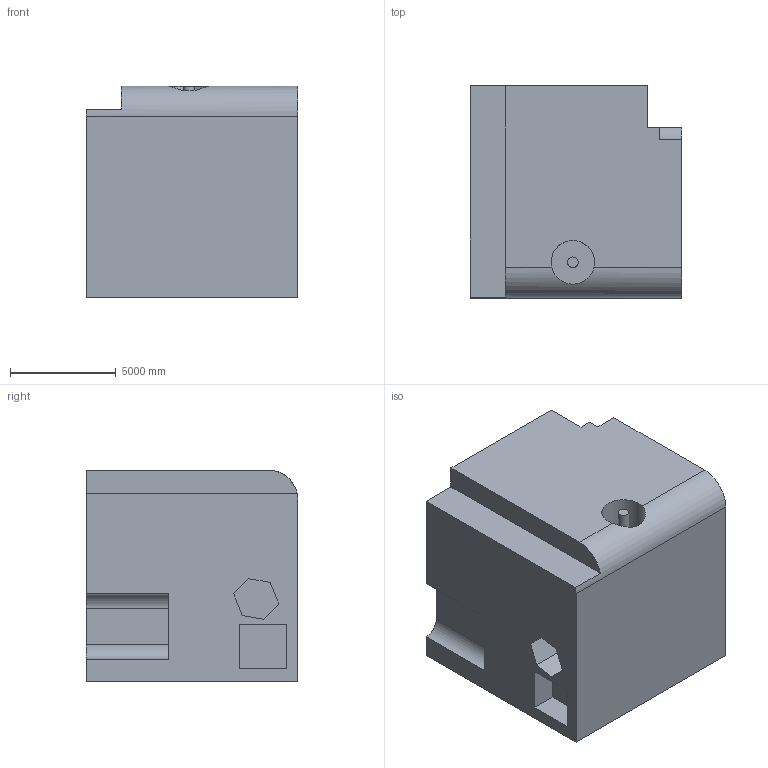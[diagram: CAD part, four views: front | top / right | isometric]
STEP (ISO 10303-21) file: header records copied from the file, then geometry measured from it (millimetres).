
FILE_DESCRIPTION (( 'STEP AP203' ), '1' );
FILE_NAME ('378.STEP', '2022-09-07T13:20:55', ( 'user' ), ( '' ), 'SwSTEP 2.0', 'SolidWorks 2021', '' );
FILE_SCHEMA (( 'CONFIG_CONTROL_DESIGN' ));
Length unit declared in the file: centimetre
Products named in the file (1): 378
Bounding box: 10000 x 10000 x 10000 mm (x, y, z)
Volume: 898103992029.4 mm3; surface area: 677994332 mm2
Topology: 1 solids, 1 shells, 41 faces, 105 edges, 70 vertices
Faces by surface type: plane 33, cylinder 8
Entity records: 1421 total; most frequent: CARTESIAN_POINT 326, ORIENTED_EDGE 210, DIRECTION 206, EDGE_CURVE 105, LINE 86, VECTOR 86, VERTEX_POINT 70, AXIS2_PLACEMENT_3D 60
